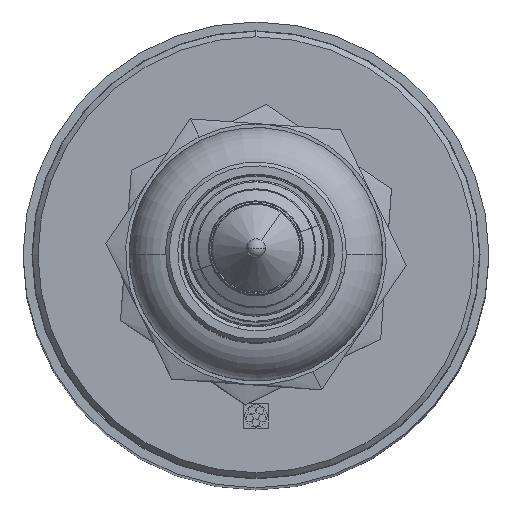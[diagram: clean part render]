
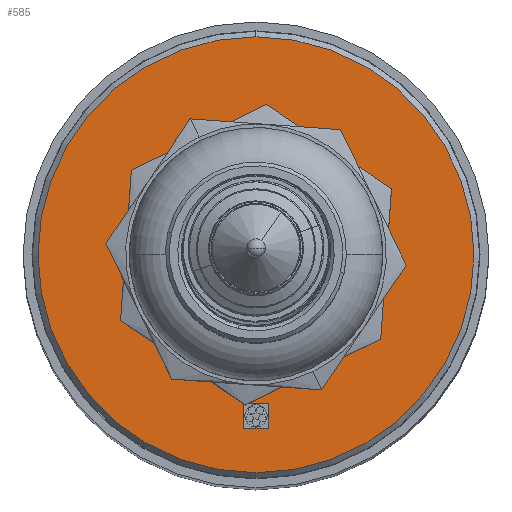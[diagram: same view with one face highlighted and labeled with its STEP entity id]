
A CAD part, top view. The second image highlights one B-rep face of the part: STEP entity #585.
In plain terms, the highlighted planar face has unit normal (0, 0, 1).
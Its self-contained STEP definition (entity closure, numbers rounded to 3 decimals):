
#585=ADVANCED_FACE('',(#1574,#1575),#1576,.T.);
#1574=FACE_OUTER_BOUND('',#2820,.T.);
#1575=FACE_BOUND('',#2821,.T.);
#1576=PLANE('',#2822);
#2820=EDGE_LOOP('',(#6088,#6089));
#2821=EDGE_LOOP('',(#6090,#6091,#6092,#6093,#6094,#6095,#6096,#6097,#6098,#6099));
#2822=AXIS2_PLACEMENT_3D('',#6100,#6101,#6102);
#6088=ORIENTED_EDGE('',*,*,#8871,.F.);
#6089=ORIENTED_EDGE('',*,*,#8472,.F.);
#6090=ORIENTED_EDGE('',*,*,#8872,.T.);
#6091=ORIENTED_EDGE('',*,*,#8873,.T.);
#6092=ORIENTED_EDGE('',*,*,#8874,.T.);
#6093=ORIENTED_EDGE('',*,*,#8875,.T.);
#6094=ORIENTED_EDGE('',*,*,#8876,.T.);
#6095=ORIENTED_EDGE('',*,*,#8877,.T.);
#6096=ORIENTED_EDGE('',*,*,#8878,.T.);
#6097=ORIENTED_EDGE('',*,*,#8879,.T.);
#6098=ORIENTED_EDGE('',*,*,#8880,.T.);
#6099=ORIENTED_EDGE('',*,*,#8881,.T.);
#6100=CARTESIAN_POINT('',(0.,8.714,-107.5));
#6101=DIRECTION('',(0.0,0.0,1.0));
#6102=DIRECTION('',(1.0,0.0,0.0));
#8472=EDGE_CURVE('',#10265,#10267,#10268,.T.);
#8871=EDGE_CURVE('',#10267,#10265,#10924,.T.);
#8872=EDGE_CURVE('',#10925,#10926,#10927,.T.);
#8873=EDGE_CURVE('',#10926,#10928,#10929,.T.);
#8874=EDGE_CURVE('',#10928,#10930,#10931,.T.);
#8875=EDGE_CURVE('',#10930,#10932,#10933,.T.);
#8876=EDGE_CURVE('',#10932,#10934,#10935,.T.);
#8877=EDGE_CURVE('',#10934,#10936,#10937,.T.);
#8878=EDGE_CURVE('',#10936,#10938,#10939,.T.);
#8879=EDGE_CURVE('',#10938,#10940,#10941,.T.);
#8880=EDGE_CURVE('',#10940,#10942,#10943,.T.);
#8881=EDGE_CURVE('',#10942,#10925,#10944,.T.);
#10265=VERTEX_POINT('',#12817);
#10267=VERTEX_POINT('',#12820);
#10268=CIRCLE('',#12821,11.7);
#10924=CIRCLE('',#14027,11.7);
#10925=VERTEX_POINT('',#14028);
#10926=VERTEX_POINT('',#14029);
#10927=LINE('',#14030,#14031);
#10928=VERTEX_POINT('',#14032);
#10929=LINE('',#14033,#14034);
#10930=VERTEX_POINT('',#14035);
#10931=LINE('',#14036,#14037);
#10932=VERTEX_POINT('',#14038);
#10933=LINE('',#14039,#14040);
#10934=VERTEX_POINT('',#14041);
#10935=LINE('',#14042,#14043);
#10936=VERTEX_POINT('',#14044);
#10937=LINE('',#14045,#14046);
#10938=VERTEX_POINT('',#14047);
#10939=LINE('',#14048,#14049);
#10940=VERTEX_POINT('',#14050);
#10941=LINE('',#14051,#14052);
#10942=VERTEX_POINT('',#14053);
#10943=LINE('',#14054,#14055);
#10944=LINE('',#14056,#14057);
#12817=CARTESIAN_POINT('',(0.,11.7,-107.5));
#12820=CARTESIAN_POINT('',(0.,-11.7,-107.5));
#12821=AXIS2_PLACEMENT_3D('',#16634,#16635,#16636);
#14027=AXIS2_PLACEMENT_3D('',#17341,#17342,#17343);
#14028=CARTESIAN_POINT('',(-0.66,-8.007,-107.5));
#14029=CARTESIAN_POINT('',(-7.271,-3.531,-107.5));
#14030=CARTESIAN_POINT('',(-0.66,-8.007,-107.5));
#14031=VECTOR('',#17344,7.984);
#14032=CARTESIAN_POINT('',(-6.693,4.532,-107.5));
#14033=CARTESIAN_POINT('',(-7.271,-3.531,-107.5));
#14034=VECTOR('',#17345,8.083);
#14035=CARTESIAN_POINT('',(0.578,8.062,-107.5));
#14036=CARTESIAN_POINT('',(-6.693,4.532,-107.5));
#14037=VECTOR('',#17346,8.083);
#14038=CARTESIAN_POINT('',(7.271,3.531,-107.5));
#14039=CARTESIAN_POINT('',(0.578,8.062,-107.5));
#14040=VECTOR('',#17347,8.083);
#14041=CARTESIAN_POINT('',(6.693,-4.532,-107.5));
#14042=CARTESIAN_POINT('',(7.271,3.531,-107.5));
#14043=VECTOR('',#17348,8.083);
#14044=CARTESIAN_POINT('',(-0.419,-7.985,-107.5));
#14045=CARTESIAN_POINT('',(6.693,-4.532,-107.5));
#14046=VECTOR('',#17349,7.906);
#14047=CARTESIAN_POINT('',(0.66,-7.985,-107.5));
#14048=CARTESIAN_POINT('',(-0.419,-7.985,-107.5));
#14049=VECTOR('',#17350,1.079);
#14050=CARTESIAN_POINT('',(0.66,-9.305,-107.5));
#14051=CARTESIAN_POINT('',(0.66,-7.985,-107.5));
#14052=VECTOR('',#17351,1.32);
#14053=CARTESIAN_POINT('',(-0.66,-9.305,-107.5));
#14054=CARTESIAN_POINT('',(0.66,-9.305,-107.5));
#14055=VECTOR('',#17352,1.32);
#14056=CARTESIAN_POINT('',(-0.66,-9.305,-107.5));
#14057=VECTOR('',#17353,1.298);
#16634=CARTESIAN_POINT('',(0.,0.,-107.5));
#16635=DIRECTION('',(0.0,0.0,-1.0));
#16636=DIRECTION('',(0.0,1.0,0.0));
#17341=CARTESIAN_POINT('',(0.,0.,-107.5));
#17342=DIRECTION('',(0.0,0.0,-1.0));
#17343=DIRECTION('',(0.0,1.0,0.0));
#17344=DIRECTION('',(-0.828,0.561,0.0));
#17345=DIRECTION('',(0.072,0.997,0.0));
#17346=DIRECTION('',(0.9,0.437,0.0));
#17347=DIRECTION('',(0.828,-0.561,0.0));
#17348=DIRECTION('',(-0.072,-0.997,0.0));
#17349=DIRECTION('',(-0.9,-0.437,0.0));
#17350=DIRECTION('',(1.0,0.0,0.0));
#17351=DIRECTION('',(0.0,-1.0,0.0));
#17352=DIRECTION('',(-1.0,0.0,0.0));
#17353=DIRECTION('',(0.0,1.0,0.0));
